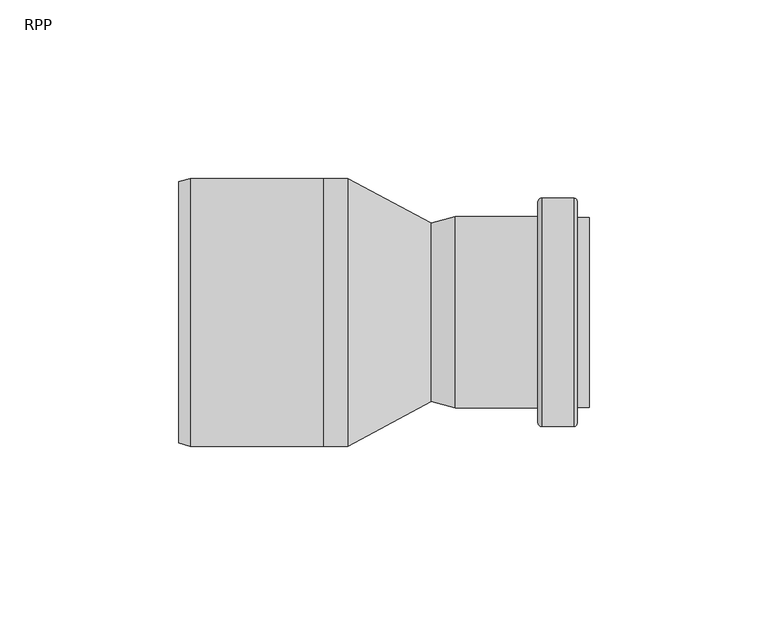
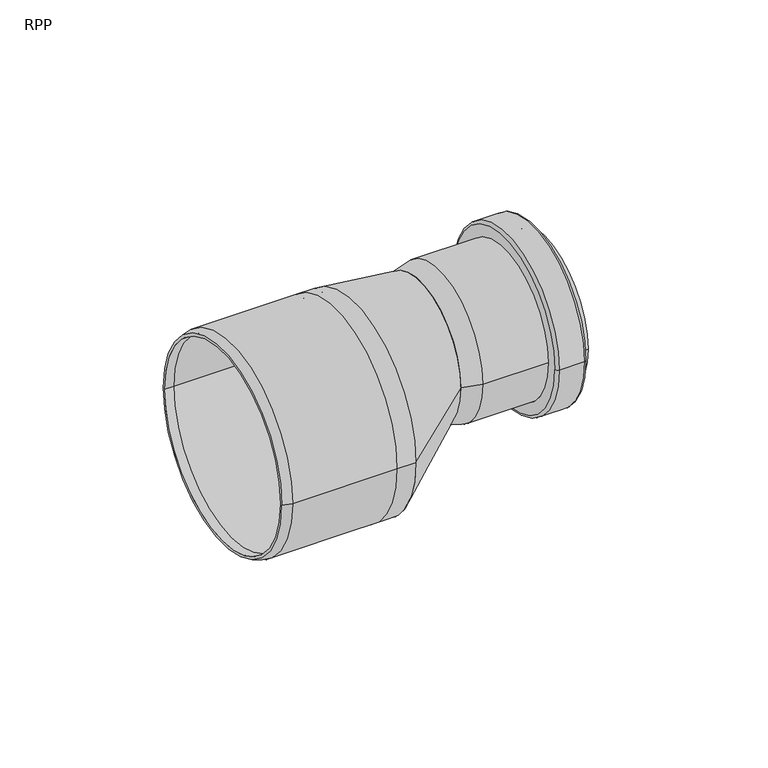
"""IFC4 building model written with IfcOpenShell, lengths in millimetres: pipe fitting geometry, RAUPIANO PLUS Reducer : RPP."""

from ifc_helpers import new_model, si_unit, point, frame, origin, place, context, project, spatial, polyline, circle_curve, ellipse_curve, trimmed, source, transform, mapped, element, save
from ifc_brep_helpers import plane_surface, cylinder_surface, revolved_surface, spline_surface, advanced_brep


def rpp_116348a2(model_context):
    return source(origin(), model_context, "Body", "AdvancedBrep", [
        advanced_brep(
        [(41.6, 26.8220545, 12.5), (41.6, -26.8220545, 12.5), (18.5, -26.8220545, 12.5), (18.5, 26.8220545, 12.5), (56.0, 26.6076952, 12.5), (56.0, -26.6076952, 12.5), (52.6, -26.6076952, 12.5), (52.6, 26.6076952, 12.5), (52.6, 25.0220545, 12.5), (52.6, -25.0220545, 12.5), (56.0, -25.0220545, 12.5), (56.0, 25.0220545, 12.5), (18.5, 25.0220545, 12.5), (18.5, -25.0220545, 12.5), (11.7, 23.2, 12.5), (11.7, -23.2, 12.5), (11.7, -25.0, 12.5), (11.7, 25.0, 12.5), (42.6, 31.9720545, 12.5), (42.6, -31.9720545, 12.5), (41.6, -30.9720545, 12.5), (41.6, 30.9720545, 12.5), (51.6, 31.9720545, 12.5), (51.6, -31.9720545, 12.5), (52.6, 30.9720545, 12.5), (52.6, -30.9720545, 12.5)],
        [
            (0, 1, circle_curve(frame((41.6, 0.0, 12.5), z_axis=(-1.0, 0.0, 0.0), x_axis=(0.0, -1.0, 0.0)), 26.8220545)),
            (1, 2),
            (2, 3, circle_curve(frame((18.5, 0.0, 12.5), z_axis=(1.0, 0.0, 0.0), x_axis=(0.0, -1.0, 0.0)), 26.8220545)),
            (3, 0),
            (4, 5, circle_curve(frame((56.0, 0.0, 12.5), z_axis=(-1.0, 0.0, 0.0), x_axis=(0.0, -1.0, 0.0)), 26.6076952)),
            (5, 6),
            (6, 7, circle_curve(frame((52.6, 0.0, 12.5), z_axis=(1.0, 0.0, 0.0), x_axis=(0.0, -1.0, 0.0)), 26.6076952)),
            (7, 4),
            (8, 9, circle_curve(frame((52.6, 0.0, 12.5), z_axis=(-1.0, 0.0, 0.0), x_axis=(0.0, -1.0, 0.0)), 25.0220545)),
            (9, 10),
            (10, 11, circle_curve(frame((56.0, 0.0, 12.5), z_axis=(1.0, 0.0, 0.0), x_axis=(0.0, -1.0, 0.0)), 25.0220545)),
            (11, 8),
            (12, 13, circle_curve(frame((18.5, 0.0, 12.5), z_axis=(-1.0, 0.0, 0.0), x_axis=(0.0, -1.0, 0.0)), 25.0220545)),
            (13, 9),
            (8, 12),
            (14, 15, circle_curve(frame((11.7, 0.0, 12.5), z_axis=(-1.0, 0.0, 0.0), x_axis=(0.0, -1.0, 0.0)), 23.2)),
            (15, 13),
            (12, 14),
            (2, 16),
            (16, 17, circle_curve(frame((11.7, 0.0, 12.5), z_axis=(1.0, 0.0, 0.0), x_axis=(0.0, -1.0, 0.0)), 25.0)),
            (17, 3),
            (1, 0, circle_curve(frame((41.6, 0.0, 12.5), z_axis=(-1.0, 0.0, 0.0), x_axis=(0.0, 1.0, 0.0)), 26.8220545)),
            (3, 2, circle_curve(frame((18.5, 0.0, 12.5), z_axis=(1.0, 0.0, 0.0), x_axis=(0.0, 1.0, 0.0)), 26.8220545)),
            (5, 4, circle_curve(frame((56.0, 0.0, 12.5), z_axis=(-1.0, 0.0, 0.0), x_axis=(0.0, 1.0, 0.0)), 26.6076952)),
            (7, 6, circle_curve(frame((52.6, 0.0, 12.5), z_axis=(1.0, 0.0, 0.0), x_axis=(0.0, 1.0, 0.0)), 26.6076952)),
            (10, 11, circle_curve(frame((56.0, 0.0, 12.5), z_axis=(-1.0, 0.0, 0.0), x_axis=(0.0, 1.0, 0.0)), 25.0220545)),
            (9, 8, circle_curve(frame((52.6, 0.0, 12.5), z_axis=(-1.0, 0.0, 0.0), x_axis=(0.0, 1.0, 0.0)), 25.0220545)),
            (13, 12, circle_curve(frame((18.5, 0.0, 12.5), z_axis=(-1.0, 0.0, 0.0), x_axis=(0.0, 1.0, 0.0)), 25.0220545)),
            (15, 14, circle_curve(frame((11.7, 0.0, 12.5), z_axis=(-1.0, 0.0, 0.0), x_axis=(0.0, 1.0, 0.0)), 23.2)),
            (17, 16, circle_curve(frame((11.7, 0.0, 12.5), z_axis=(1.0, 0.0, 0.0), x_axis=(0.0, 1.0, 0.0)), 25.0)),
            (18, 19, circle_curve(frame((42.6, 0.0, 12.5), z_axis=(-1.0, 0.0, 0.0), x_axis=(0.0, -1.0, 0.0)), 31.9720545)),
            (19, 20, circle_curve(frame((42.6, -30.9720545, 12.5), z_axis=(0.0, 0.0, -1.0), x_axis=(1.0, 0.0, 0.0)), 1.0)),
            (20, 21, circle_curve(frame((41.6, 0.0, 12.5), z_axis=(1.0, 0.0, 0.0), x_axis=(0.0, -1.0, 0.0)), 30.9720545)),
            (21, 18, circle_curve(frame((42.6, 30.9720545, 12.5), z_axis=(0.0, 0.0, -1.0), x_axis=(1.0, 0.0, 0.0)), 1.0)),
            (22, 23, circle_curve(frame((51.6, 0.0, 12.5), z_axis=(-1.0, 0.0, 0.0), x_axis=(0.0, -1.0, 0.0)), 31.9720545)),
            (23, 19),
            (18, 22),
            (24, 25, circle_curve(frame((52.6, 0.0, 12.5), z_axis=(-1.0, 0.0, 0.0), x_axis=(0.0, -1.0, 0.0)), 30.9720545)),
            (25, 23, circle_curve(frame((51.6, -30.9720545, 12.5), z_axis=(0.0, 0.0, -1.0), x_axis=(1.0, 0.0, 0.0)), 1.0)),
            (22, 24, circle_curve(frame((51.6, 30.9720545, 12.5), z_axis=(0.0, 0.0, -1.0), x_axis=(1.0, 0.0, 0.0)), 1.0)),
            (20, 21, circle_curve(frame((41.6, 0.0, 12.5), z_axis=(-1.0, 0.0, 0.0), x_axis=(0.0, 1.0, 0.0)), 30.9720545)),
            (19, 18, circle_curve(frame((42.6, 0.0, 12.5), z_axis=(-1.0, 0.0, 0.0), x_axis=(0.0, 1.0, 0.0)), 31.9720545)),
            (23, 22, circle_curve(frame((51.6, 0.0, 12.5), z_axis=(-1.0, 0.0, 0.0), x_axis=(0.0, 1.0, 0.0)), 31.9720545)),
            (25, 24, circle_curve(frame((52.6, 0.0, 12.5), z_axis=(-1.0, 0.0, 0.0), x_axis=(0.0, 1.0, 0.0)), 30.9720545)),
        ],
        [
            cylinder_surface(frame((0.0, 0.0, 12.5), z_axis=(1.0, 0.0, 0.0), x_axis=(0.0, -1.0, 0.0)), 26.8220545),
            cylinder_surface(frame((0.0, 0.0, 12.5), z_axis=(1.0, 0.0, 0.0), x_axis=(0.0, -1.0, 0.0)), 26.6076952),
            revolved_surface(polyline([(56.0, -25.0220545, 12.5), (52.6, -25.0220545, 12.5)]), (0.0, 0.0, 12.5), (1.0, 0.0, 0.0)),
            revolved_surface(polyline([(52.6, -25.0220545, 12.5), (18.5, -25.0220545, 12.5)]), (0.0, 0.0, 12.5), (1.0, 0.0, 0.0)),
            revolved_surface(polyline([(18.5, -25.0220545, 12.5), (11.7, -23.2, 12.5)]), (0.0, 0.0, 12.5), (1.0, 0.0, 0.0)),
            revolved_surface(polyline([(11.7, -25.0, 12.5), (18.5, -26.8220545, 12.5)]), (0.0, 0.0, 12.5), (1.0, 0.0, 0.0)),
            cylinder_surface(frame((0.0, 0.0, 12.5), z_axis=(1.0, 0.0, 0.0), x_axis=(0.0, 1.0, 0.0)), 26.8220545),
            cylinder_surface(frame((0.0, 0.0, 12.5), z_axis=(1.0, 0.0, 0.0), x_axis=(0.0, 1.0, 0.0)), 26.6076952),
            plane_surface(frame((56.0, 0.0, 12.5), z_axis=(1.0, 0.0, 0.0), x_axis=(0.0, 1.0, 0.0))),
            revolved_surface(polyline([(56.0, 25.0220545, 12.5), (52.6, 25.0220545, 12.5)]), (0.0, 0.0, 12.5), (1.0, 0.0, 0.0)),
            revolved_surface(polyline([(52.6, 25.0220545, 12.5), (18.5, 25.0220545, 12.5)]), (0.0, 0.0, 12.5), (1.0, 0.0, 0.0)),
            revolved_surface(polyline([(18.5, 25.0220545, 12.5), (11.7, 23.2, 12.5)]), (0.0, 0.0, 12.5), (1.0, 0.0, 0.0)),
            revolved_surface(polyline([(11.7, 25.0, 12.5), (18.5, 26.8220545, 12.5)]), (0.0, 0.0, 12.5), (1.0, 0.0, 0.0)),
            revolved_surface(trimmed(ellipse_curve(frame((42.6, -30.9720545, 12.5), z_axis=(0.0, 0.0, 1.0), x_axis=(1.0, 0.0, 0.0)), 1.0, 1.0), [point((41.6, -30.9720545, 12.5))], [point((42.6, -31.9720545, 12.5))], True, "CARTESIAN"), (0.0, 0.0, 12.5), (1.0, 0.0, 0.0)),
            cylinder_surface(frame((0.0, 0.0, 12.5), z_axis=(1.0, 0.0, 0.0), x_axis=(0.0, -1.0, 0.0)), 31.9720545),
            revolved_surface(trimmed(ellipse_curve(frame((51.6, -30.9720545, 12.5), z_axis=(0.0, 0.0, 1.0), x_axis=(1.0, 0.0, 0.0)), 1.0, 1.0), [point((51.6, -31.9720545, 12.5))], [point((52.6, -30.9720545, 12.5))], True, "CARTESIAN"), (0.0, 0.0, 12.5), (1.0, 0.0, 0.0)),
            plane_surface(frame((41.6, 0.0, 12.5), z_axis=(-1.0, 0.0, 0.0), x_axis=(0.0, 1.0, 0.0))),
            revolved_surface(trimmed(ellipse_curve(frame((42.6, 30.9720545, 12.5), z_axis=(0.0, 0.0, -1.0), x_axis=(1.0, 0.0, 0.0)), 1.0, 1.0), [point((41.6, 30.9720545, 12.5))], [point((42.6, 31.9720545, 12.5))], True, "CARTESIAN"), (0.0, 0.0, 12.5), (1.0, 0.0, 0.0)),
            cylinder_surface(frame((0.0, 0.0, 12.5), z_axis=(1.0, 0.0, 0.0), x_axis=(0.0, 1.0, 0.0)), 31.9720545),
            revolved_surface(trimmed(ellipse_curve(frame((51.6, 30.9720545, 12.5), z_axis=(0.0, 0.0, -1.0), x_axis=(1.0, 0.0, 0.0)), 1.0, 1.0), [point((51.6, 31.9720545, 12.5))], [point((52.6, 30.9720545, 12.5))], True, "CARTESIAN"), (0.0, 0.0, 12.5), (1.0, 0.0, 0.0)),
            plane_surface(frame((52.6, 0.0, 12.5), z_axis=(1.0, 0.0, 0.0), x_axis=(0.0, 1.0, 0.0))),
            plane_surface(frame((11.7, 0.0, 12.5), z_axis=(-1.0, 0.0, 0.0), x_axis=(0.0, 1.0, 0.0))),
        ],
        [
            (0, [[1, 2, 3, 4]]),
            (1, [[5, 6, 7, 8]]),
            (2, [[9, 10, 11, 12]]),
            (3, [[13, 14, -9, 15]]),
            (4, [[16, 17, -13, 18]]),
            (5, [[-3, 19, 20, 21]]),
            (6, [[22, -4, 23, -2]]),
            (7, [[24, -8, 25, -6]]),
            (8, [[-24, -5], [26, -11]]),
            (9, [[27, -12, -26, -10]]),
            (10, [[28, -15, -27, -14]]),
            (11, [[29, -18, -28, -17]]),
            (12, [[-23, -21, 30, -19]]),
            (13, [[31, 32, 33, 34]]),
            (14, [[35, 36, -31, 37]]),
            (15, [[38, 39, -35, 40]]),
            (16, [[41, -33], [-22, -1]]),
            (17, [[42, -34, -41, -32]]),
            (18, [[43, -37, -42, -36]]),
            (19, [[44, -40, -43, -39]]),
            (20, [[-44, -38], [-25, -7]]),
            (21, [[-30, -20], [-29, -16]]),
        ],
    ),
        advanced_brep(
        [(-11.7, 37.5, 0.0), (-11.7, -37.5, 0.0), (-18.3, -37.5, 0.0), (-18.3, 37.5, 0.0), (-18.3, 35.6, 0.0), (-18.3, -35.6, 0.0), (-11.7, -35.6, 0.0), (-11.7, 35.6, 0.0), (-55.7, 35.6, 0.0), (-55.7, -35.6, 0.0), (-59.0, 35.6, 0.0), (-59.0, -35.6, 0.0), (-55.7, 37.5, 0.0), (-55.7, -37.5, 0.0), (-59.0, -36.6157677, 0.0), (-59.0, 36.6157677, 0.0)],
        [
            (0, 1, circle_curve(frame((-11.7, 0.0, 0.0), z_axis=(-1.0, 0.0, 0.0), x_axis=(0.0, -1.0, 0.0)), 37.5)),
            (1, 2),
            (2, 3, circle_curve(frame((-18.3, 0.0, 0.0), z_axis=(1.0, 0.0, 0.0), x_axis=(0.0, -1.0, 0.0)), 37.5)),
            (3, 0),
            (4, 5, circle_curve(frame((-18.3, 0.0, 0.0), z_axis=(-1.0, 0.0, 0.0), x_axis=(0.0, -1.0, 0.0)), 35.6)),
            (5, 6),
            (6, 7, circle_curve(frame((-11.7, 0.0, 0.0), z_axis=(1.0, 0.0, 0.0), x_axis=(0.0, -1.0, 0.0)), 35.6)),
            (7, 4),
            (8, 9, circle_curve(frame((-55.7, 0.0, 0.0), z_axis=(-1.0, 0.0, 0.0), x_axis=(0.0, -1.0, 0.0)), 35.6)),
            (9, 5),
            (4, 8),
            (10, 11, circle_curve(frame((-59.0, 0.0, 0.0), z_axis=(-1.0, 0.0, 0.0), x_axis=(0.0, -1.0, 0.0)), 35.6)),
            (11, 9),
            (8, 10),
            (12, 13, circle_curve(frame((-55.7, 0.0, 0.0), z_axis=(-1.0, 0.0, 0.0), x_axis=(0.0, -1.0, 0.0)), 37.5)),
            (13, 14),
            (14, 15, circle_curve(frame((-59.0, 0.0, 0.0), z_axis=(1.0, 0.0, 0.0), x_axis=(0.0, -1.0, 0.0)), 36.6157677)),
            (15, 12),
            (2, 13),
            (12, 3),
            (1, 0, circle_curve(frame((-11.7, 0.0, 0.0), z_axis=(-1.0, 0.0, 0.0), x_axis=(0.0, 1.0, 0.0)), 37.5)),
            (3, 2, circle_curve(frame((-18.3, 0.0, 0.0), z_axis=(1.0, 0.0, 0.0), x_axis=(0.0, 1.0, 0.0)), 37.5)),
            (6, 7, circle_curve(frame((-11.7, 0.0, 0.0), z_axis=(-1.0, 0.0, 0.0), x_axis=(0.0, 1.0, 0.0)), 35.6)),
            (5, 4, circle_curve(frame((-18.3, 0.0, 0.0), z_axis=(-1.0, 0.0, 0.0), x_axis=(0.0, 1.0, 0.0)), 35.6)),
            (9, 8, circle_curve(frame((-55.7, 0.0, 0.0), z_axis=(-1.0, 0.0, 0.0), x_axis=(0.0, 1.0, 0.0)), 35.6)),
            (11, 10, circle_curve(frame((-59.0, 0.0, 0.0), z_axis=(-1.0, 0.0, 0.0), x_axis=(0.0, 1.0, 0.0)), 35.6)),
            (14, 15, circle_curve(frame((-59.0, 0.0, 0.0), z_axis=(-1.0, 0.0, 0.0), x_axis=(0.0, 1.0, 0.0)), 36.6157677)),
            (13, 12, circle_curve(frame((-55.7, 0.0, 0.0), z_axis=(-1.0, 0.0, 0.0), x_axis=(0.0, 1.0, 0.0)), 37.5)),
        ],
        [
            cylinder_surface(frame((0.0, 0.0, 0.0), z_axis=(1.0, 0.0, 0.0), x_axis=(0.0, -1.0, 0.0)), 37.5),
            revolved_surface(polyline([(-11.7, -35.6, 0.0), (-18.3, -35.6, 0.0)]), (0.0, 0.0, 0.0), (1.0, 0.0, 0.0)),
            revolved_surface(polyline([(-18.3, -35.6, 0.0), (-55.7, -35.6, 0.0)]), (0.0, 0.0, 0.0), (1.0, 0.0, 0.0)),
            revolved_surface(polyline([(-55.7, -35.6, 0.0), (-59.0, -35.6, 0.0)]), (0.0, 0.0, 0.0), (1.0, 0.0, 0.0)),
            revolved_surface(polyline([(-59.0, -36.6157677, 0.0), (-55.7, -37.5, 0.0)]), (0.0, 0.0, 0.0), (1.0, 0.0, 0.0)),
            cylinder_surface(frame((0.0, 0.0, 0.0), z_axis=(1.0, 0.0, 0.0), x_axis=(0.0, 1.0, 0.0)), 37.5),
            plane_surface(frame((-11.7, 0.0, 0.0), z_axis=(1.0, 0.0, 0.0), x_axis=(0.0, 1.0, 0.0))),
            revolved_surface(polyline([(-11.7, 35.6, 0.0), (-18.3, 35.6, 0.0)]), (0.0, 0.0, 0.0), (1.0, 0.0, 0.0)),
            revolved_surface(polyline([(-18.3, 35.6, 0.0), (-55.7, 35.6, 0.0)]), (0.0, 0.0, 0.0), (1.0, 0.0, 0.0)),
            revolved_surface(polyline([(-55.7, 35.6, 0.0), (-59.0, 35.6, 0.0)]), (0.0, 0.0, 0.0), (1.0, 0.0, 0.0)),
            plane_surface(frame((-59.0, 0.0, 0.0), z_axis=(-1.0, 0.0, 0.0), x_axis=(0.0, 1.0, 0.0))),
            revolved_surface(polyline([(-59.0, 36.6157677, 0.0), (-55.7, 37.5, 0.0)]), (0.0, 0.0, 0.0), (1.0, 0.0, 0.0)),
        ],
        [
            (0, [[1, 2, 3, 4]]),
            (1, [[5, 6, 7, 8]]),
            (2, [[9, 10, -5, 11]]),
            (3, [[12, 13, -9, 14]]),
            (4, [[15, 16, 17, 18]]),
            (0, [[-3, 19, -15, 20]]),
            (5, [[21, -4, 22, -2]]),
            (6, [[-21, -1], [23, -7]]),
            (7, [[24, -8, -23, -6]]),
            (8, [[25, -11, -24, -10]]),
            (9, [[26, -14, -25, -13]]),
            (10, [[27, -17], [-26, -12]]),
            (11, [[28, -18, -27, -16]]),
            (5, [[-22, -20, -28, -19]]),
        ],
    ),
        advanced_brep(
        [(11.7, -25.0, 12.5), (11.7, 25.0, 12.5), (-11.7, -37.5, 0.0), (-11.7, 37.5, 0.0)],
        [
            (0, 1, circle_curve(frame((11.7, 0.0, 12.5), z_axis=(1.0, 0.0, 0.0), x_axis=(0.0, 1.0, 0.0)), 25.0)),
            (1, 0, circle_curve(frame((11.7, 0.0, 12.5), z_axis=(1.0, 0.0, 0.0), x_axis=(0.0, 1.0, 0.0)), 25.0)),
            (2, 3, circle_curve(frame((-11.7, 0.0, 0.0), z_axis=(-1.0, 0.0, 0.0), x_axis=(0.0, 1.0, 0.0)), 37.5)),
            (3, 2, circle_curve(frame((-11.7, 0.0, 0.0), z_axis=(-1.0, 0.0, 0.0), x_axis=(0.0, 1.0, 0.0)), 37.5)),
            (3, 1),
            (0, 2),
        ],
        [
            plane_surface(frame((11.7, 0.0, 12.5), z_axis=(1.0, 0.0, 0.0), x_axis=(0.0, 0.0, -1.0))),
            plane_surface(frame((-11.7, 0.0, 0.0), z_axis=(-1.0, 0.0, 0.0), x_axis=(0.0, 0.0, -1.0))),
            spline_surface(2, 1, [[(-11.7, -37.5, 0.0), (11.7, -25.0, 12.5)], [(-11.7, -37.5, -37.5), (11.7, -25.0, -12.5)], [(-11.7, 0.0, -37.5), (11.7, 0.0, -12.5)], [(-11.7, 37.5, -37.5), (11.7, 25.0, -12.5)], [(-11.7, 37.5, 0.0), (11.7, 25.0, 12.5)]], [3, 2, 3], [2, 2], [0.0, 1.0, 2.0], [0.0, 1.0], weights=[[1.0, 1.0], [0.7071067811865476, 0.7071067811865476], [1.0, 1.0], [0.7071067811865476, 0.7071067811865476], [1.0, 1.0]]),
            spline_surface(2, 1, [[(-11.7, 37.5, 0.0), (11.7, 25.0, 12.5)], [(-11.7, 37.5, 37.5), (11.7, 25.0, 37.5)], [(-11.7, 0.0, 37.5), (11.7, 0.0, 37.5)], [(-11.7, -37.5, 37.5), (11.7, -25.0, 37.5)], [(-11.7, -37.5, 0.0), (11.7, -25.0, 12.5)]], [3, 2, 3], [2, 2], [0.0, 1.0, 2.0], [0.0, 1.0], weights=[[1.0, 1.0], [0.7071067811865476, 0.7071067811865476], [1.0, 1.0], [0.7071067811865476, 0.7071067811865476], [1.0, 1.0]]),
        ],
        [
            (0, [[1, 2]]),
            (1, [[3, 4]]),
            (2, [[-4, 5, -1, 6]]),
            (3, [[-3, -6, -2, -5]]),
        ],
    ),
    ])


if __name__ == "__main__":
    model = new_model("IFC4")
    model_context = context("Model", 3, world=origin())
    ifc_project = project(units=[si_unit("LENGTHUNIT", "METRE", prefix="MILLI")], contexts=[model_context])
    site = spatial("IfcSite", under=ifc_project)
    building = spatial("IfcBuilding", under=site)
    placement = place(None, origin())
    rpp_shape = rpp_116348a2(model_context)
    element("IfcPipeFitting", 1, ObjectType="RAUPIANO PLUS Reducer : RPP", at=placement, inside=building, context=model_context, shape_type="MappedRepresentation", body=[
        mapped(rpp_shape, transform((0.0, 0.0, 0.0), x_axis=(1.0, 0.0, 0.0), y_axis=(0.0, 1.0, 0.0), z_axis=(0.0, 0.0, 1.0))),
    ])
    save(model, "model.ifc")
